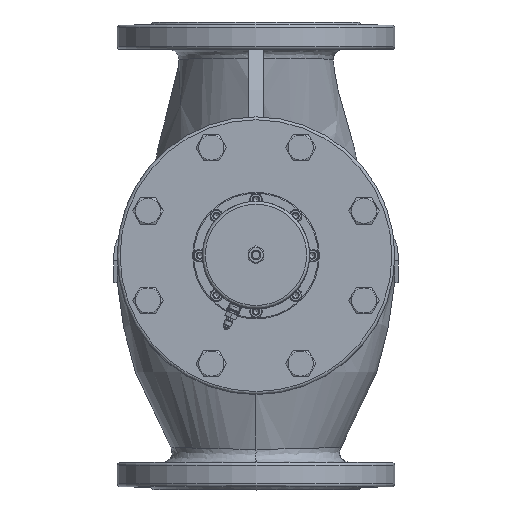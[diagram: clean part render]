
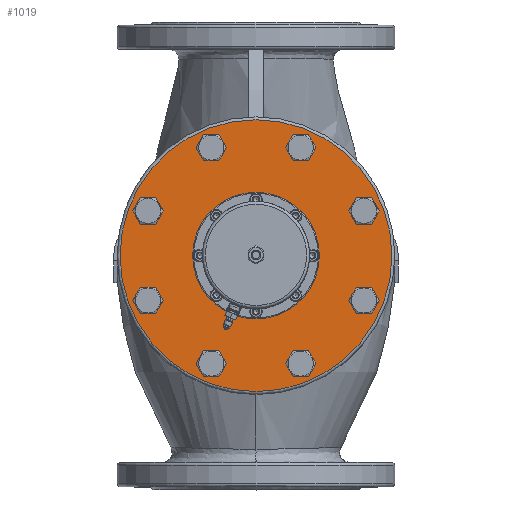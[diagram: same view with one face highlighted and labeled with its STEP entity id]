
A CAD part, top view. The second image highlights one B-rep face of the part: STEP entity #1019.
In plain terms, the highlighted planar face has unit normal (0, 0, 1).
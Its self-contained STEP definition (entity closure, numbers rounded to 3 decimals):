
#1019=ADVANCED_FACE('',(#18675,#18677,#18679,#18681,#18683,#18685,#18687,#18689,
#18691),#18693,.T.);
#18675=FACE_BOUND('',#18676,.T.);
#18676=EDGE_LOOP('',(#32074));
#18677=FACE_BOUND('',#18678,.T.);
#18678=EDGE_LOOP('',(#32075));
#18679=FACE_BOUND('',#18680,.T.);
#18680=EDGE_LOOP('',(#32076));
#18681=FACE_BOUND('',#18682,.T.);
#18682=EDGE_LOOP('',(#32077));
#18683=FACE_BOUND('',#18684,.T.);
#18684=EDGE_LOOP('',(#32078));
#18685=FACE_BOUND('',#18686,.T.);
#18686=EDGE_LOOP('',(#32079));
#18687=FACE_BOUND('',#18688,.T.);
#18688=EDGE_LOOP('',(#32080));
#18689=FACE_BOUND('',#18690,.T.);
#18690=EDGE_LOOP('',(#32081));
#18691=FACE_BOUND('',#18692,.T.);
#18692=EDGE_LOOP('',(#32082));
#18693=PLANE('',#18694);
#18694=AXIS2_PLACEMENT_3D('',#18695,#18696,#18697);
#18695=CARTESIAN_POINT('',(0.,0.,183.));
#18696=DIRECTION('',(0.,0.,1.));
#18697=DIRECTION('',(0.,1.,0.));
#32074=ORIENTED_EDGE('',*,*,#34065,.T.);
#32075=ORIENTED_EDGE('',*,*,#34063,.T.);
#32076=ORIENTED_EDGE('',*,*,#34062,.T.);
#32077=ORIENTED_EDGE('',*,*,#34061,.T.);
#32078=ORIENTED_EDGE('',*,*,#34060,.T.);
#32079=ORIENTED_EDGE('',*,*,#34059,.T.);
#32080=ORIENTED_EDGE('',*,*,#34058,.T.);
#32081=ORIENTED_EDGE('',*,*,#34057,.T.);
#32082=ORIENTED_EDGE('',*,*,#34056,.T.);
#34056=EDGE_CURVE('',#35307,#35307,#35308,.F.);
#34057=EDGE_CURVE('',#35309,#35309,#35310,.F.);
#34058=EDGE_CURVE('',#35311,#35311,#35312,.F.);
#34059=EDGE_CURVE('',#35313,#35313,#35314,.F.);
#34060=EDGE_CURVE('',#35315,#35315,#35316,.F.);
#34061=EDGE_CURVE('',#35317,#35317,#35318,.F.);
#34062=EDGE_CURVE('',#35319,#35319,#35320,.F.);
#34063=EDGE_CURVE('',#35321,#35321,#35322,.F.);
#34065=EDGE_CURVE('',#35325,#35325,#35326,.T.);
#35307=VERTEX_POINT('',#41179);
#35308=CIRCLE('',#41180,11.);
#35309=VERTEX_POINT('',#41184);
#35310=CIRCLE('',#41185,11.);
#35311=VERTEX_POINT('',#41189);
#35312=CIRCLE('',#41190,11.);
#35313=VERTEX_POINT('',#41194);
#35314=CIRCLE('',#41195,11.);
#35315=VERTEX_POINT('',#41199);
#35316=CIRCLE('',#41200,11.);
#35317=VERTEX_POINT('',#41204);
#35318=CIRCLE('',#41205,11.);
#35319=VERTEX_POINT('',#41209);
#35320=CIRCLE('',#41210,11.);
#35321=VERTEX_POINT('',#41214);
#35322=CIRCLE('',#41215,11.);
#35325=VERTEX_POINT('',#41224);
#35326=CIRCLE('',#41225,139.5);
#41179=CARTESIAN_POINT('',(-38.144,118.644,183.));
#41180=AXIS2_PLACEMENT_3D('',#41181,#41182,#41183);
#41181=CARTESIAN_POINT('',(-45.922,110.866,183.));
#41182=DIRECTION('',(0.,0.,1.));
#41183=DIRECTION('',(0.707,0.707,0.));
#41184=CARTESIAN_POINT('',(-110.866,56.922,183.));
#41185=AXIS2_PLACEMENT_3D('',#41186,#41187,#41188);
#41186=CARTESIAN_POINT('',(-110.866,45.922,183.));
#41187=DIRECTION('',(0.,0.,1.));
#41188=DIRECTION('',(0.,1.,0.));
#41189=CARTESIAN_POINT('',(-118.644,-38.144,183.));
#41190=AXIS2_PLACEMENT_3D('',#41191,#41192,#41193);
#41191=CARTESIAN_POINT('',(-110.866,-45.922,183.));
#41192=DIRECTION('',(0.,0.,1.));
#41193=DIRECTION('',(-0.707,0.707,0.));
#41194=CARTESIAN_POINT('',(-56.922,-110.866,183.));
#41195=AXIS2_PLACEMENT_3D('',#41196,#41197,#41198);
#41196=CARTESIAN_POINT('',(-45.922,-110.866,183.));
#41197=DIRECTION('',(0.,0.,1.));
#41198=DIRECTION('',(-1.,0.,0.));
#41199=CARTESIAN_POINT('',(38.144,-118.644,183.));
#41200=AXIS2_PLACEMENT_3D('',#41201,#41202,#41203);
#41201=CARTESIAN_POINT('',(45.922,-110.866,183.));
#41202=DIRECTION('',(0.,0.,1.));
#41203=DIRECTION('',(-0.707,-0.707,0.));
#41204=CARTESIAN_POINT('',(110.866,-56.922,183.));
#41205=AXIS2_PLACEMENT_3D('',#41206,#41207,#41208);
#41206=CARTESIAN_POINT('',(110.866,-45.922,183.));
#41207=DIRECTION('',(0.,0.,1.));
#41208=DIRECTION('',(0.,-1.,0.));
#41209=CARTESIAN_POINT('',(118.644,38.144,183.));
#41210=AXIS2_PLACEMENT_3D('',#41211,#41212,#41213);
#41211=CARTESIAN_POINT('',(110.866,45.922,183.));
#41212=DIRECTION('',(0.,0.,1.));
#41213=DIRECTION('',(0.707,-0.707,0.));
#41214=CARTESIAN_POINT('',(56.922,110.866,183.));
#41215=AXIS2_PLACEMENT_3D('',#41216,#41217,#41218);
#41216=CARTESIAN_POINT('',(45.922,110.866,183.));
#41217=DIRECTION('',(0.,0.,1.));
#41218=DIRECTION('',(1.,0.,0.));
#41224=CARTESIAN_POINT('',(0.,139.5,183.));
#41225=AXIS2_PLACEMENT_3D('',#41226,#41227,#41228);
#41226=CARTESIAN_POINT('',(0.,0.,183.));
#41227=DIRECTION('',(0.,0.,1.));
#41228=DIRECTION('',(0.,1.,0.));
